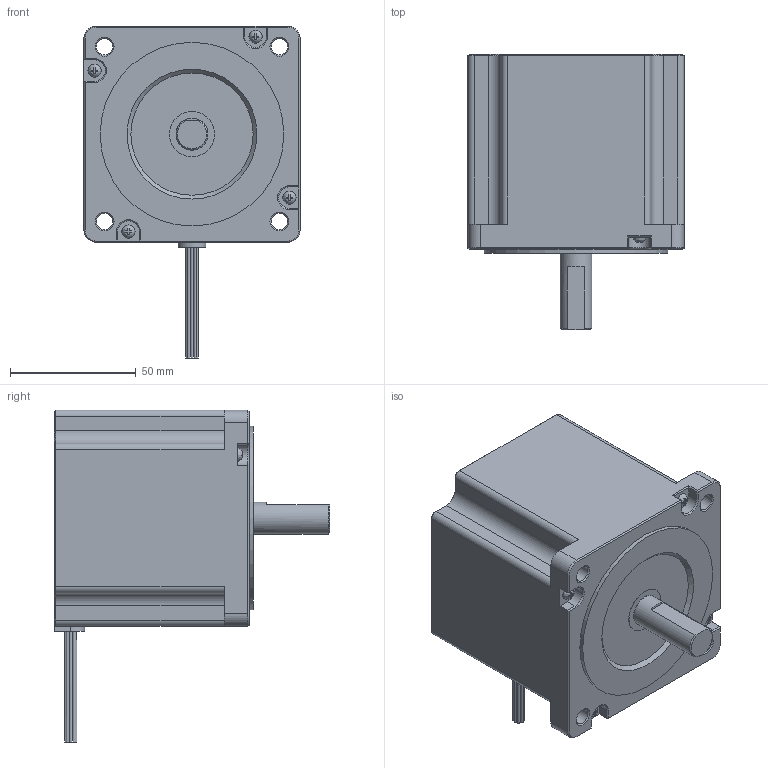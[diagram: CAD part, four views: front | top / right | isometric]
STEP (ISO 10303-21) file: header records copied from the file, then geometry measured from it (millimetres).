
FILE_DESCRIPTION(/* description */ (''),/* implementation_level */ '2;1');
FILE_NAME(/* name */ 'JK86HS78-4208-01F.step',/* time_stamp */ '2019-12-06T10:52:21+08:00',/* author */ (''),/* organization */ (''),/* preprocessor_version */ 'ST-DEVELOPER v14',/* originating_system */ 'SIEMENS PLM Software NX 8.0',/* authorisation */ '');
FILE_SCHEMA (('AUTOMOTIVE_DESIGN { 1 0 10303 214 3 1 1 1 }'));
Length unit declared in the file: millimetre
Products named in the file (1): 86hs78-4208-01F
Bounding box: 86 x 109.4 x 132 mm (x, y, z)
Volume: 528186.4 mm3; surface area: 47587.2 mm2
Topology: 2 solids, 6 shells, 261 faces, 625 edges, 397 vertices
Faces by surface type: plane 176, cylinder 52, cone 29, bspline 4
Full cylindrical faces by diameter (mm): 1.103 x8, 3.3 x8, 5.249 x4, 6 x1, 6.5 x4, 12.7 x2, 15 x1, 17 x1, 18 x1, 73 x1
Entity records: 7754 total; most frequent: CARTESIAN_POINT 2033, DIRECTION 1153, ORIENTED_EDGE 1106, EDGE_CURVE 553, AXIS2_PLACEMENT_3D 400, VERTEX_POINT 370, LINE 353, VECTOR 353
